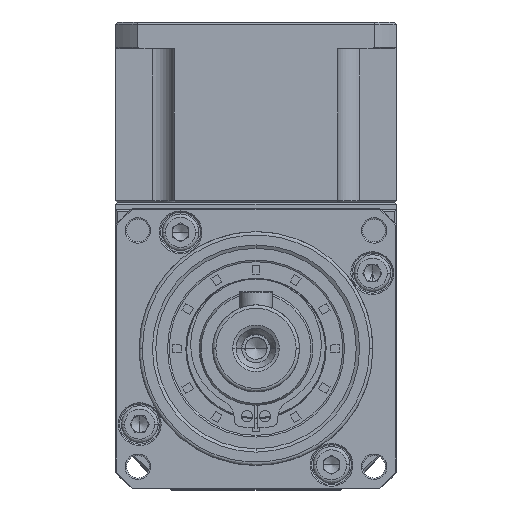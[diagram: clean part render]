
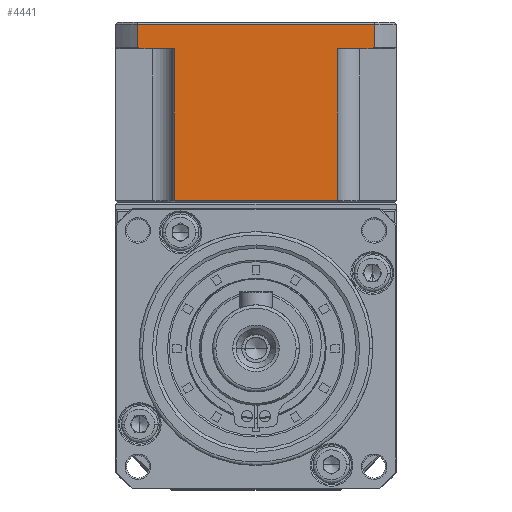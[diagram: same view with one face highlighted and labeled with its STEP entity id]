
A CAD part, top view. The second image highlights one B-rep face of the part: STEP entity #4441.
In plain terms, the highlighted planar face has unit normal (0, 0, 1).
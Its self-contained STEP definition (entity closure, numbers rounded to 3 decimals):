
#722 = FACE_OUTER_BOUND ( 'NONE', #29613, .T. ) ;
#2049 = VERTEX_POINT ( 'NONE', #53221 ) ;
#2281 = PLANE ( 'NONE',  #21520 ) ;
#3397 = EDGE_CURVE ( 'NONE', #95310, #115584, #78723, .T. ) ;
#4441 = ADVANCED_FACE ( 'NONE', ( #722 ), #2281, .T. ) ;
#9819 = VECTOR ( 'NONE', #44973, 1000. ) ;
#11054 = VERTEX_POINT ( 'NONE', #128332 ) ;
#19035 = CARTESIAN_POINT ( 'NONE',  ( -40.041, 5.055, 88.152 ) ) ;
#20907 = ORIENTED_EDGE ( 'NONE', *, *, #133271, .T. ) ;
#21520 = AXIS2_PLACEMENT_3D ( 'NONE', #85171, #23517, #95518 ) ;
#23517 = DIRECTION ( 'NONE',  ( 0., 0., 1. ) ) ;
#24015 = LINE ( 'NONE', #35579, #78791 ) ;
#24150 = LINE ( 'NONE', #126966, #130051 ) ;
#27137 = CARTESIAN_POINT ( 'NONE',  ( -4.66, 48.386, 88.152 ) ) ;
#27541 = LINE ( 'NONE', #68805, #130194 ) ;
#27780 = EDGE_CURVE ( 'NONE', #78316, #61133, #88789, .T. ) ;
#29613 = EDGE_LOOP ( 'NONE', ( #91899, #41264, #20907, #121262, #128834, #80265, #43487, #60071, #43352, #113546 ) ) ;
#32344 = CARTESIAN_POINT ( 'NONE',  ( -34.535, 25.22, 88.152 ) ) ;
#35579 = CARTESIAN_POINT ( 'NONE',  ( -1.285, 51.92, 88.152 ) ) ;
#36099 = CARTESIAN_POINT ( 'NONE',  ( -4.92, 48.22, 88.152 ) ) ;
#37493 = VERTEX_POINT ( 'NONE', #72217 ) ;
#37975 = CARTESIAN_POINT ( 'NONE',  ( -4.92, 48.22, 88.152 ) ) ;
#39848 = EDGE_CURVE ( 'NONE', #37493, #2049, #24150, .T. ) ;
#41064 = CARTESIAN_POINT ( 'NONE',  ( -40.041, 48.47, 88.152 ) ) ;
#41065 = VECTOR ( 'NONE', #93991, 1000. ) ;
#41247 = VERTEX_POINT ( 'NONE', #86128 ) ;
#41264 = ORIENTED_EDGE ( 'NONE', *, *, #3397, .T. ) ;
#41710 = VECTOR ( 'NONE', #102830, 1000. ) ;
#42286 = CARTESIAN_POINT ( 'NONE',  ( -40.041, 48.47, 88.152 ) ) ;
#43352 = ORIENTED_EDGE ( 'NONE', *, *, #27780, .T. ) ;
#43487 = ORIENTED_EDGE ( 'NONE', *, *, #116104, .T. ) ;
#44314 = LINE ( 'NONE', #32344, #41065 ) ;
#44973 = DIRECTION ( 'NONE',  ( 0., 1., 0. ) ) ;
#46963 = CARTESIAN_POINT ( 'NONE',  ( -4.53, 51.92, 88.152 ) ) ;
#49983 = EDGE_CURVE ( 'NONE', #41247, #37493, #44314, .T. ) ;
#51454 = CARTESIAN_POINT ( 'NONE',  ( -39.651, 48.22, 88.152 ) ) ;
#53221 = CARTESIAN_POINT ( 'NONE',  ( -10.035, 25.52, 88.152 ) ) ;
#57147 = B_SPLINE_CURVE_WITH_KNOTS ( 'NONE', 3,
 ( #99024, #27137, #99450, #37975 ),
 .UNSPECIFIED., .F., .F.,
 ( 4, 4 ),
 ( 0., 0. ),
 .UNSPECIFIED. ) ;
#60071 = ORIENTED_EDGE ( 'NONE', *, *, #132337, .F. ) ;
#60158 = LINE ( 'NONE', #99480, #111320 ) ;
#61133 = VERTEX_POINT ( 'NONE', #46963 ) ;
#63158 = VERTEX_POINT ( 'NONE', #67968 ) ;
#67968 = CARTESIAN_POINT ( 'NONE',  ( -10.035, 48.22, 88.152 ) ) ;
#68805 = CARTESIAN_POINT ( 'NONE',  ( -10.035, 25.22, 88.152 ) ) ;
#72217 = CARTESIAN_POINT ( 'NONE',  ( -34.535, 25.52, 88.152 ) ) ;
#76928 = DIRECTION ( 'NONE',  ( 1., 0., 0. ) ) ;
#78316 = VERTEX_POINT ( 'NONE', #104444 ) ;
#78723 = B_SPLINE_CURVE_WITH_KNOTS ( 'NONE', 3,
 ( #41064, #102452, #112761, #51454 ),
 .UNSPECIFIED., .F., .F.,
 ( 4, 4 ),
 ( 0., 0. ),
 .UNSPECIFIED. ) ;
#78791 = VECTOR ( 'NONE', #107344, 1000. ) ;
#80265 = ORIENTED_EDGE ( 'NONE', *, *, #102679, .T. ) ;
#80691 = DIRECTION ( 'NONE',  ( 0., 1., 0. ) ) ;
#82157 = VECTOR ( 'NONE', #80691, 1000. ) ;
#85171 = CARTESIAN_POINT ( 'NONE',  ( -1.285, 25.22, 88.152 ) ) ;
#85443 = LINE ( 'NONE', #19035, #82157 ) ;
#86128 = CARTESIAN_POINT ( 'NONE',  ( -34.535, 48.22, 88.152 ) ) ;
#88565 = DIRECTION ( 'NONE',  ( 0., 1., 0. ) ) ;
#88789 = LINE ( 'NONE', #106365, #9819 ) ;
#91899 = ORIENTED_EDGE ( 'NONE', *, *, #132761, .F. ) ;
#92729 = CARTESIAN_POINT ( 'NONE',  ( -1.285, 48.22, 88.152 ) ) ;
#93991 = DIRECTION ( 'NONE',  ( 0., -1., 0. ) ) ;
#95310 = VERTEX_POINT ( 'NONE', #42286 ) ;
#95518 = DIRECTION ( 'NONE',  ( -1., 0., 0. ) ) ;
#99024 = CARTESIAN_POINT ( 'NONE',  ( -4.53, 48.47, 88.152 ) ) ;
#99450 = CARTESIAN_POINT ( 'NONE',  ( -4.79, 48.303, 88.152 ) ) ;
#99480 = CARTESIAN_POINT ( 'NONE',  ( -1.285, 48.22, 88.152 ) ) ;
#102452 = CARTESIAN_POINT ( 'NONE',  ( -39.911, 48.386, 88.152 ) ) ;
#102679 = EDGE_CURVE ( 'NONE', #2049, #63158, #27541, .T. ) ;
#102830 = DIRECTION ( 'NONE',  ( 1., 0., 0. ) ) ;
#102945 = CARTESIAN_POINT ( 'NONE',  ( -39.651, 48.22, 88.152 ) ) ;
#104444 = CARTESIAN_POINT ( 'NONE',  ( -4.53, 48.47, 88.152 ) ) ;
#104953 = EDGE_CURVE ( 'NONE', #11054, #61133, #24015, .T. ) ;
#106365 = CARTESIAN_POINT ( 'NONE',  ( -4.53, 25.22, 88.152 ) ) ;
#107344 = DIRECTION ( 'NONE',  ( 1., 0., 0. ) ) ;
#111320 = VECTOR ( 'NONE', #130286, 1000. ) ;
#112761 = CARTESIAN_POINT ( 'NONE',  ( -39.781, 48.303, 88.152 ) ) ;
#113546 = ORIENTED_EDGE ( 'NONE', *, *, #104953, .F. ) ;
#115584 = VERTEX_POINT ( 'NONE', #102945 ) ;
#116104 = EDGE_CURVE ( 'NONE', #63158, #133008, #60158, .T. ) ;
#121262 = ORIENTED_EDGE ( 'NONE', *, *, #49983, .T. ) ;
#123489 = LINE ( 'NONE', #92729, #41710 ) ;
#126966 = CARTESIAN_POINT ( 'NONE',  ( -1.285, 25.52, 88.152 ) ) ;
#128332 = CARTESIAN_POINT ( 'NONE',  ( -40.041, 51.92, 88.152 ) ) ;
#128834 = ORIENTED_EDGE ( 'NONE', *, *, #39848, .T. ) ;
#130051 = VECTOR ( 'NONE', #76928, 1000. ) ;
#130194 = VECTOR ( 'NONE', #88565, 1000. ) ;
#130286 = DIRECTION ( 'NONE',  ( 1., 0., 0. ) ) ;
#132337 = EDGE_CURVE ( 'NONE', #78316, #133008, #57147, .T. ) ;
#132761 = EDGE_CURVE ( 'NONE', #95310, #11054, #85443, .T. ) ;
#133008 = VERTEX_POINT ( 'NONE', #36099 ) ;
#133271 = EDGE_CURVE ( 'NONE', #115584, #41247, #123489, .T. ) ;
